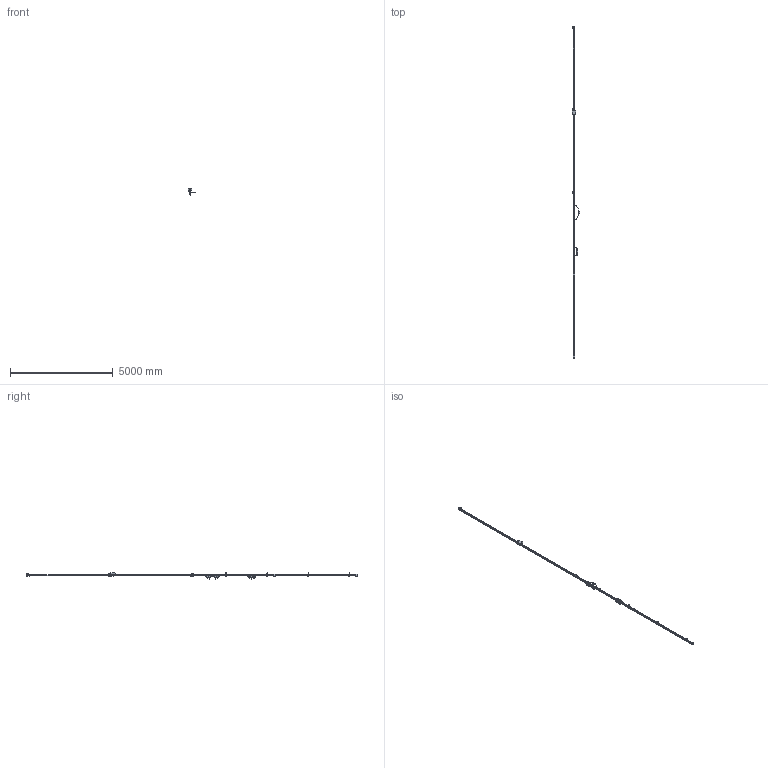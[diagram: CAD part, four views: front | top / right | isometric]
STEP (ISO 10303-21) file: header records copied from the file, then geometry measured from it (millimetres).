
FILE_DESCRIPTION(/* description */ ('Unknown'),/* implementation_level */ '2;1');
FILE_NAME(/* name */ 'Exemple de ligne INNO',/* time_stamp */ '2018-08-16T11:26:32+02:00',/* author */ ('Unknown'),/* organization */ ('Unknown'),/* preprocessor_version */ 'ST-DEVELOPER v16.7',/* originating_system */ 'DEX',/* authorisation */ $);
FILE_SCHEMA (('AUTOMOTIVE_DESIGN {1 0 10303 214 3 1 1}'));
Products named in the file (31): Exemple de ligne INNO; MI44xx_MI46xx_Profil Inno 4m_SPL; MI2400_Capot de fermeture Inno_SPL; MI1300_Boîte en cours M25_SPL; Assemblage chariot simplifié simple +entraîneur; corps de chariot simplifié; Bride; chaine4_1; MAILLON-CHAINETTE_1; ANNEAU-ELASTIQUE_1; ANNEAU-ELASTIQUE_1_mir; chaine4_1_mir; entraineur ME1600; MN0217-TROMP_BRIDE PROFIL U_1; MN0222_1; Vis6x70_1; Ecrou M6 Nylstop; MI2000_Couvre-joint Inno_SPL; MI1510_Suspension coulissante Inno_SPL; MI1332_Boîte en cours M40_SPL; Boîte d'alimentation en bout simplifiée; Assemblage chariot simplifié double +entraîneur; Assemblage chariot double simplifié; chaine4_1_mir2; ANNEAU-ELASTIQUE_1_mir3; Chainette 5 maillons; ANNEAU-ELASTIQUE_1_mir2; Entraineur double ME1610; MO1611_1; vism6x70_1
Assembly tree (76 placements, depth 5):
  Exemple de ligne INNO
    MI44xx_MI46xx_Profil Inno 4m_SPL  x4
    MI2400_Capot de fermeture Inno_SPL
    MI1300_Boîte en cours M25_SPL
    Assemblage chariot simplifié simple +entraîneur
      corps de chariot simplifié
      Bride
      chaine4_1
        MAILLON-CHAINETTE_1  x8
        ANNEAU-ELASTIQUE_1
      ANNEAU-ELASTIQUE_1_mir
      chaine4_1_mir
        MAILLON-CHAINETTE_1  x8
        ANNEAU-ELASTIQUE_1_mir
      entraineur ME1600
        MN0217-TROMP_BRIDE PROFIL U_1
        MN0222_1
        Vis6x70_1  x2
        Ecrou M6 Nylstop  x2
      ANNEAU-ELASTIQUE_1
    MI2000_Couvre-joint Inno_SPL
    MI1510_Suspension coulissante Inno_SPL  x4
    MI1332_Boîte en cours M40_SPL
    Assemblage chariot simplifié double +entraîneur
      Assemblage chariot double simplifié
        corps de chariot simplifié  x2
        chaine4_1_mir2
          MAILLON-CHAINETTE_1  x8
          ANNEAU-ELASTIQUE_1_mir3
        chaine4_1
          MAILLON-CHAINETTE_1  x8
          ANNEAU-ELASTIQUE_1
        Chainette 5 maillons
          MAILLON-CHAINETTE_1  x5
        ANNEAU-ELASTIQUE_1_mir
        ANNEAU-ELASTIQUE_1_mir2
        ANNEAU-ELASTIQUE_1_mir3
        ANNEAU-ELASTIQUE_1
      Entraineur double ME1610
        MO1611_1
        MN0217-TROMP_BRIDE PROFIL U_1
        vism6x70_1  x2
        Ecrou M6 Nylstop  x2
  Boîte d'alimentation en bout simplifiée
Bounding box: 367.12 x 16168.1 x 334.4 mm (x, y, z)
Volume: 34297772.9 mm3; surface area: 8964020.5 mm2
Topology: 80 solids, 80 shells, 2822 faces, 7459 edges, 4778 vertices
Faces by surface type: plane 1356, cylinder 932, bspline 270, cone 164, torus 98, sphere 2
Full cylindrical faces by diameter (mm): 3 x74, 6 x8, 6.5 x4, 7 x8, 8 x39, 8.5 x8, 9 x2, 9.6 x4, 14 x3, 15 x2, 22 x8, 25 x3, 40 x12, 42 x1
Entity records: 66236 total; most frequent: CARTESIAN_POINT 22626, DIRECTION 7388, ORIENTED_EDGE 7318, EDGE_CURVE 3659, AXIS2_PLACEMENT_3D 2647, VERTEX_POINT 2337, LINE 2094, VECTOR 2094
